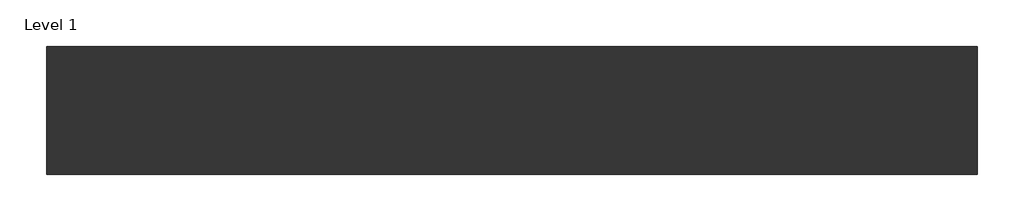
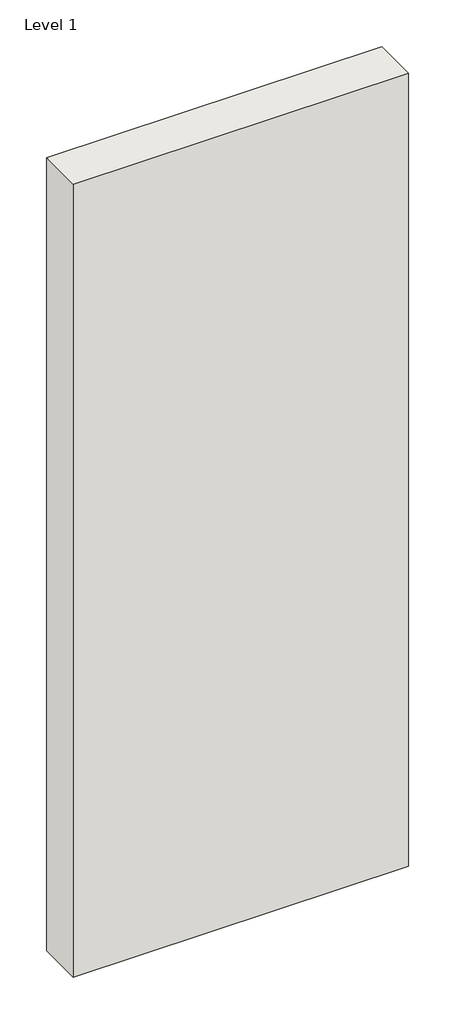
# One storey: 1 wall.
"""IFC4 building model written with IfcOpenShell, lengths in millimetres."""

from ifc_helpers import new_model, si_unit, origin, origin_with_axes, place, context, project, spatial, polyline, outline, extrude, element, save

model = new_model("IFC4")

# Units and contexts
model_context = context("Model", 3, world=origin())
ifc_project = project(units=[si_unit("LENGTHUNIT", "METRE", prefix="MILLI")], contexts=[model_context])

# Site, building, storey
site = spatial("IfcSite", under=ifc_project)
building = spatial("IfcBuilding", under=site)
storey = spatial("IfcBuildingStorey", under=building, Name="Level 1", Elevation=0.0)

# Wall
placement = place(None, origin())
element("IfcWall", 1, ObjectType="RIGIPS - 3.22.00 - EI 60, REI 60 - 5500 - 12dB (137.5)", at=placement, inside=storey, context=model_context, shape_type="SweptSolid", body=[
    extrude(outline(polyline([(1000.0, -68.75), (0.0, -68.75), (0.0, 68.75), (1000.0, 68.75), (1000.0, -68.75)])), origin_with_axes(), (0.0, 0.0, 1.0), 2500.0),
])

save(model, "model.ifc")
